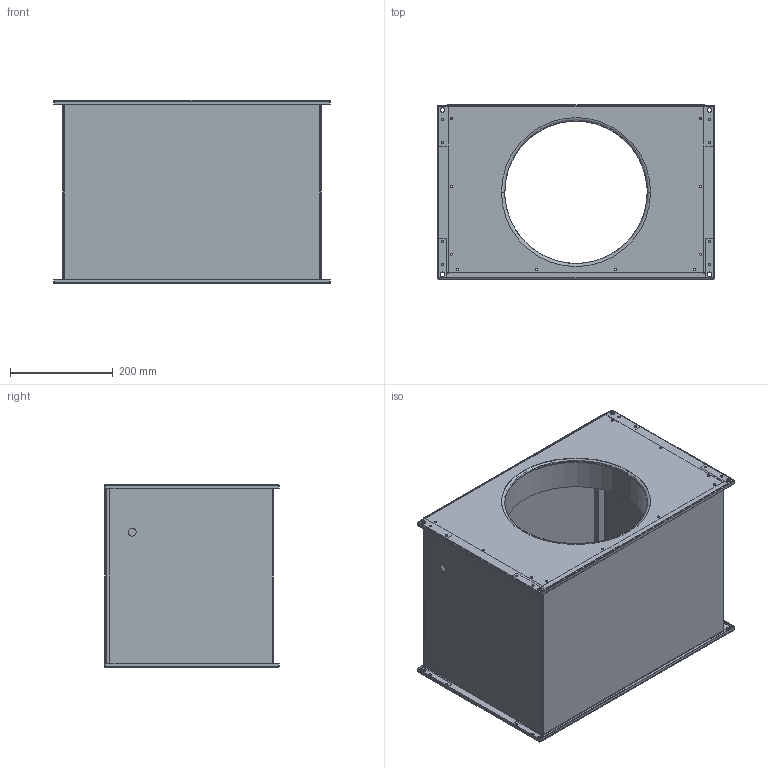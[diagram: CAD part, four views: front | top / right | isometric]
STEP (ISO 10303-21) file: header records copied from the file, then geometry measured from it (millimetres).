
FILE_DESCRIPTION (( 'STEP AP203' ), '1' );
FILE_NAME ('127742-00_ELKI5030E210.STEP', '2013-09-25T06:11:08', ( '' ), ( '' ), 'SwSTEP 2.0', 'SolidWorks 2012', '' );
FILE_SCHEMA (( 'CONFIG_CONTROL_DESIGN' ));
Length unit declared in the file: millimetre
Products named in the file (1): 127742-00_ELKI5030E210
Bounding box: 538 x 339 x 357 mm (x, y, z)
Surface area: 1977082.2 mm2 (no closed solid volume)
Topology: 0 solids, 55 shells, 398 faces, 1265 edges, 901 vertices
Faces by surface type: cylinder 233, plane 150, bspline 11, torus 4
Entity records: 15014 total; most frequent: CARTESIAN_POINT 3364, DIRECTION 2580, ORIENTED_EDGE 1987, EDGE_CURVE 1265, AXIS2_PLACEMENT_3D 985, VERTEX_POINT 901, VECTOR 610, LINE 610
